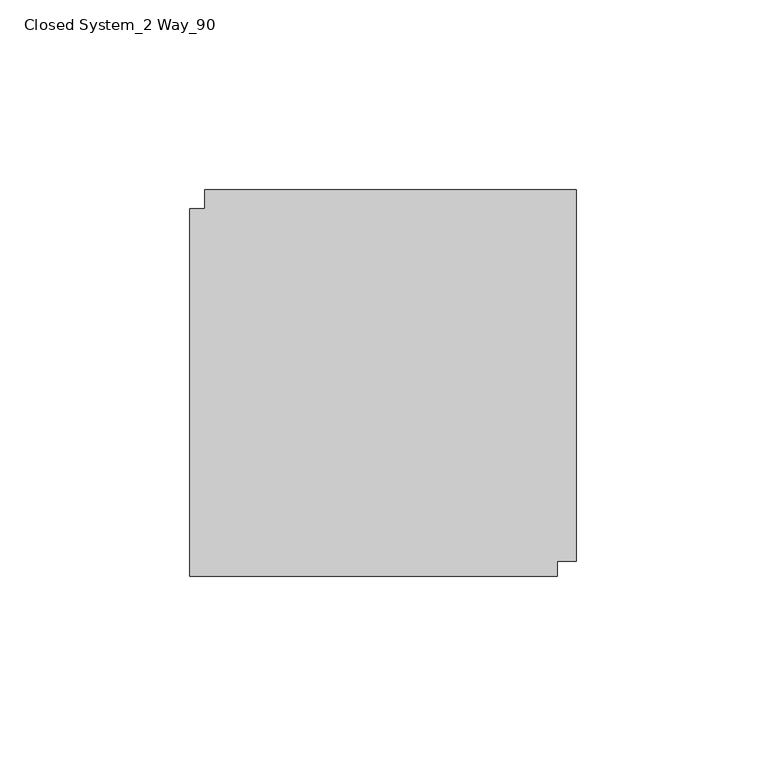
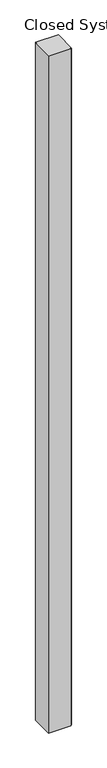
"""IFC4 building model written with IfcOpenShell, lengths in millimetres: furniture geometry, Haworth_Enclose_Accessories_WallModuleIntersection : Closed System_2 Way_90."""

from ifc_helpers import new_model, si_unit, origin, origin_with_axes, place, context, project, spatial, polyline, outline, extrude, source, transform, mapped, element, save


def closed_system_2_way_90_f91a387f(model_context):
    return source(origin(), model_context, "Body", "SweptSolid", [
        extrude(outline(polyline([(29.9771531, 22.2450295), (33.9141531, 22.2450295), (33.9141531, 27.1980295), (131.5771531, 27.1980295), (131.5771531, -70.4649705), (126.6241531, -70.4649705), (126.6241531, -74.4019705), (29.9771531, -74.4019705), (29.9771531, 22.2450295)])), origin_with_axes(), (0.0, 0.0, 1.0), 3048.0),
    ])


if __name__ == "__main__":
    model = new_model("IFC4")
    model_context = context("Model", 3, world=origin())
    ifc_project = project(units=[si_unit("LENGTHUNIT", "METRE", prefix="MILLI")], contexts=[model_context])
    site = spatial("IfcSite", under=ifc_project)
    building = spatial("IfcBuilding", under=site)
    placement = place(None, origin())
    closed_system_2_way_90_shape = closed_system_2_way_90_f91a387f(model_context)
    element("IfcFurniture", 1, ObjectType="Haworth_Enclose_Accessories_WallModuleIntersection : Closed System_2 Way_90", at=placement, inside=building, context=model_context, shape_type="MappedRepresentation", body=[
        mapped(closed_system_2_way_90_shape, transform((0.0, 0.0, 0.0), x_axis=(1.0, 0.0, 0.0), y_axis=(0.0, 1.0, 0.0), z_axis=(0.0, 0.0, 1.0))),
    ])
    save(model, "model.ifc")
